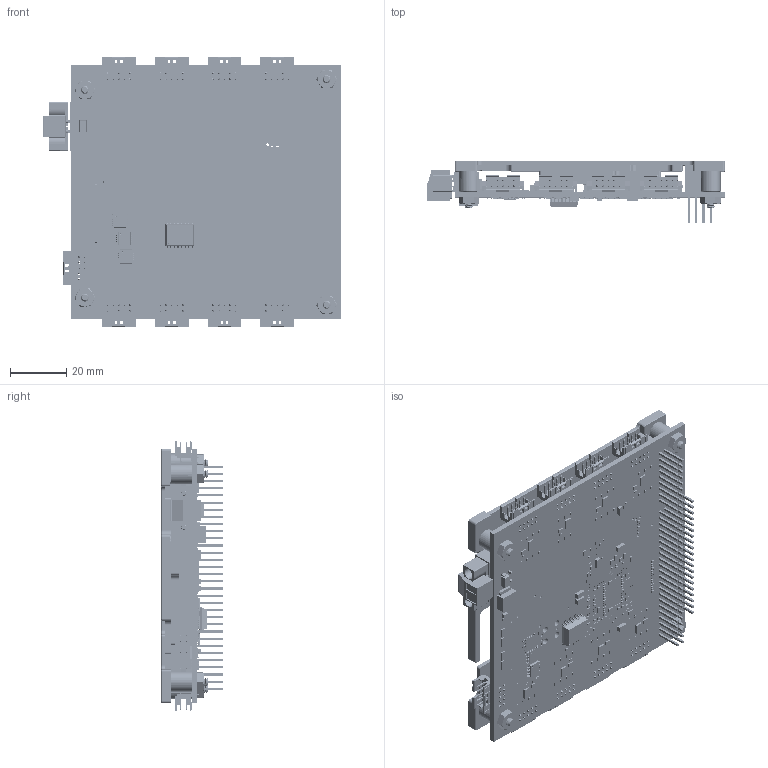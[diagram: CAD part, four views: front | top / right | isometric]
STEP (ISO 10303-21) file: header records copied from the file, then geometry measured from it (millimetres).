
FILE_DESCRIPTION (( 'STEP AP214' ), '1' );
FILE_NAME ('Assembly(0.01) Conduction Cooled XDG020.STEP', '2015-08-04T17:26:21', ( '' ), ( '' ), 'SwSTEP 2.0', 'SolidWorks 2014', '' );
FILE_SCHEMA (( 'AUTOMOTIVE_DESIGN' ));
Length unit declared in the file: inch
Products named in the file (8): Assembly(0.01) Conduction Cooled XDG020; 21464 Loctite 222 Threadlocker; GR45A-0H-50GY Thermal Pad, 1.00X1.00_50GR-ae; 92146A530 Lockwasher, #4, Split, SS_92146A530; 91841A005 Nut, 4-40, SS_91841A005; 91772A111 Screw, 4-40X.563 PPHMS, SS_91772A111; XDG008_3D_MODEL; CTIA-00575 REV 0.01  Heat Plate - Top, Conduction Cooled XDG
Assembly tree (15 placements, depth 2):
  Assembly(0.01) Conduction Cooled XDG020
    CTIA-00575 REV 0.01  Heat Plate - Top, Conduction Cooled XDG
    XDG008_3D_MODEL
    91772A111 Screw, 4-40X.563 PPHMS, SS_91772A111  x4
    91841A005 Nut, 4-40, SS_91841A005  x4
    92146A530 Lockwasher, #4, Split, SS_92146A530  x4
    GR45A-0H-50GY Thermal Pad, 1.00X1.00_50GR-ae
  21464 Loctite 222 Threadlocker
Bounding box: 105.67 x 22.08 x 95.65 mm (x, y, z)
Volume: 27865.7 mm3; surface area: 64773.7 mm2
Topology: 14 solids, 1370 shells, 9676 faces, 37333 edges, 28100 vertices
Faces by surface type: plane 7981, cylinder 1333, cone 260, bspline 78, torus 16, sphere 8
Entity records: 479908 total; most frequent: CARTESIAN_POINT 82728, DIRECTION 56335, ORIENTED_EDGE 50797, EDGE_CURVE 35530, LINE 30623, VECTOR 30623, VERTEX_POINT 26942, AXIS2_PLACEMENT_3D 12856
